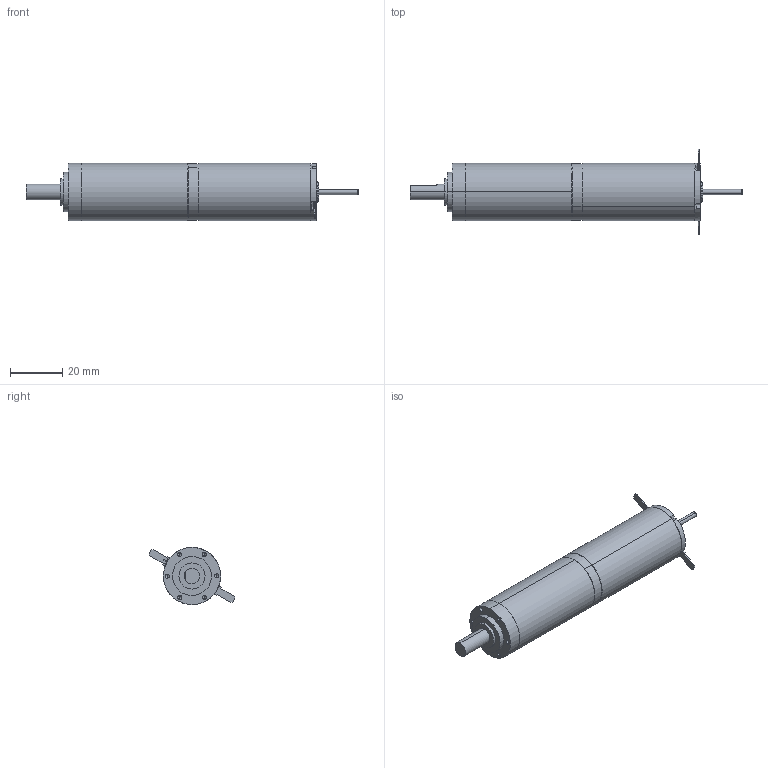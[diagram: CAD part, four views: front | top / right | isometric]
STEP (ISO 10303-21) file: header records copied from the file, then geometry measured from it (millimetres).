
FILE_DESCRIPTION (( 'STEP AP214' ), '1' );
FILE_NAME ('DCX22LG + GP22HP-4 étages.STEP', '2014-10-13T15:09:23', ( '' ), ( '' ), 'SwSTEP 2.0', 'SolidWorks 2013', '' );
FILE_SCHEMA (( 'AUTOMOTIVE_DESIGN' ));
Length unit declared in the file: millimetre
Products named in the file (18): DCX22LG + GP22HP-4 étages; DCX22LG; 14; 13; 12; 11; 10; 9; 8; 7; 6; 1228536; 5; 4; 3; 2; 1; GP22HP_4-STUFIG-370800
Assembly tree (17 placements, depth 3):
  DCX22LG + GP22HP-4 étages
    GP22HP_4-STUFIG-370800
    DCX22LG
      1
      2
      3
      4
      5
      1228536
      6
      7
      8
      9
      10
      11
      12
      13
      14
Bounding box: 127.35 x 32.86 x 22 mm (x, y, z)
Volume: 33870 mm3; surface area: 14013.8 mm2
Topology: 16 solids, 16 shells, 856 faces, 2047 edges, 1268 vertices
Faces by surface type: cylinder 320, plane 261, cone 192, bspline 83
Entity records: 37831 total; most frequent: CARTESIAN_POINT 8045, DIRECTION 4452, ORIENTED_EDGE 4066, EDGE_CURVE 2033, AXIS2_PLACEMENT_3D 1722, VERTEX_POINT 1268, VECTOR 1008, LINE 1008
